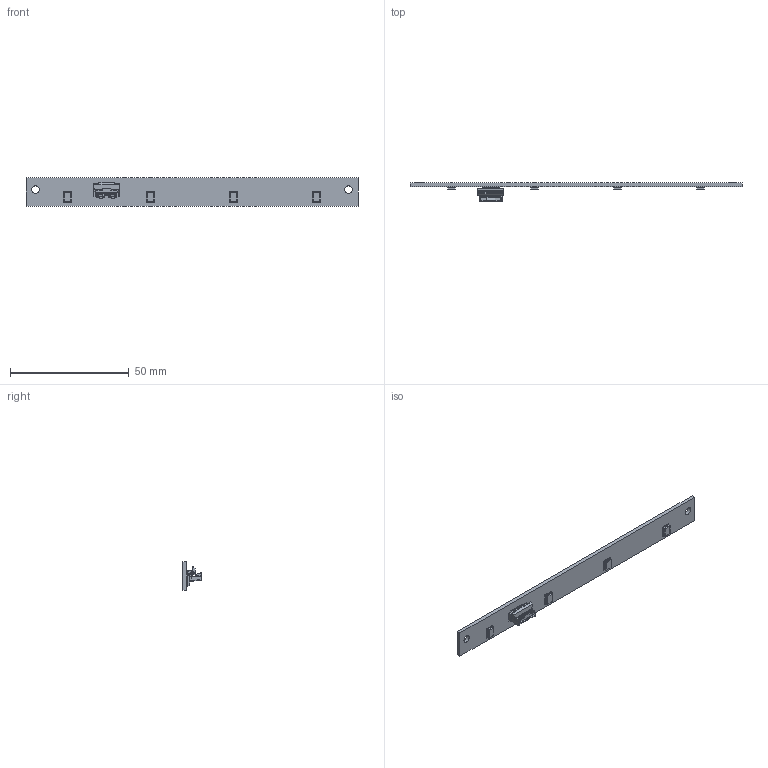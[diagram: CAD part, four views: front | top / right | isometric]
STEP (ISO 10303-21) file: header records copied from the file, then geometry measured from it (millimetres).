
FILE_DESCRIPTION((''),'2;1');
FILE_NAME('MIC_PCB_LINEAR_ASSY_ASM','2020-12-04T',('g6007893'),(''),'PRO/ENGINEER BY PARAMETRIC TECHNOLOGY CORPORATION, 2013320','PRO/ENGINEER BY PARAMETRIC TECHNOLOGY CORPORATION, 2013320','');
FILE_SCHEMA(('AUTOMOTIVE_DESIGN { 1 0 10303 214 1 1 1 1 }'));
Length unit declared in the file: millimetre
Products named in the file (4): MIC_PCB_LINEAR; SPM0687LR5X_REV_1_SW; 5022311500; MIC_PCB_LINEAR_ASSY_ASM
Assembly tree (6 placements, depth 2):
  MIC_PCB_LINEAR_ASSY_ASM
    MIC_PCB_LINEAR
    SPM0687LR5X_REV_1_SW  x4
    5022311500
Bounding box: 140 x 7.65 x 12 mm (x, y, z)
Volume: 2873.6 mm3; surface area: 4752.7 mm2
Topology: 6 solids, 6 shells, 1231 faces, 3518 edges, 2336 vertices
Faces by surface type: plane 917, cylinder 202, bspline 112
Entity records: 34548 total; most frequent: CARTESIAN_POINT 6493, ORIENTED_EDGE 5860, DIRECTION 5212, EDGE_CURVE 2930, VECTOR 2526, LINE 2526, VERTEX_POINT 1964, AXIS2_PLACEMENT_3D 1343
